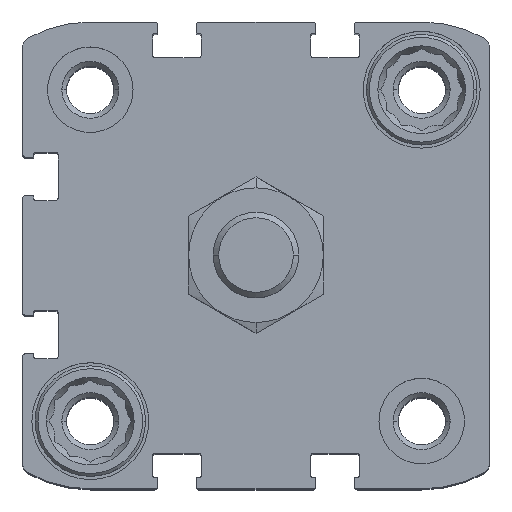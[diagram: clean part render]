
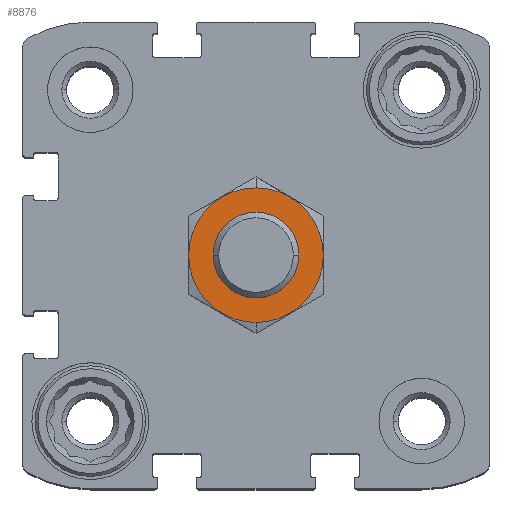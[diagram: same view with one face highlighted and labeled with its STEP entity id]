
A CAD part, top view. The second image highlights one B-rep face of the part: STEP entity #8876.
In plain terms, the highlighted planar face has unit normal (0, 0, 1).
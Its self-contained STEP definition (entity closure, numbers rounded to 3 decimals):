
#216 = EDGE_LOOP ( 'NONE', ( #14972, #6643 ) ) ;
#579 = EDGE_CURVE ( 'NONE', #9124, #8569, #13719, .T. ) ;
#669 = DIRECTION ( 'NONE',  ( 0., 1., 0. ) ) ;
#2800 = CARTESIAN_POINT ( 'NONE',  ( 0., 0., 19.5 ) ) ;
#2934 = AXIS2_PLACEMENT_3D ( 'NONE', #16343, #9737, #3116 ) ;
#3031 = FACE_OUTER_BOUND ( 'NONE', #10237, .T. ) ;
#3116 = DIRECTION ( 'NONE',  ( 0., 1., 0. ) ) ;
#3307 = CARTESIAN_POINT ( 'NONE',  ( 0., 0., 19.5 ) ) ;
#3370 = VERTEX_POINT ( 'NONE', #12874 ) ;
#4257 = AXIS2_PLACEMENT_3D ( 'NONE', #4749, #15023, #669 ) ;
#4432 = EDGE_CURVE ( 'NONE', #5081, #3370, #8739, .T. ) ;
#4617 = EDGE_CURVE ( 'NONE', #8569, #9124, #13432, .T. ) ;
#4749 = CARTESIAN_POINT ( 'NONE',  ( 0., 0., 19.5 ) ) ;
#5081 = VERTEX_POINT ( 'NONE', #12050 ) ;
#5421 = CIRCLE ( 'NONE', #7646, 6. ) ;
#5729 = FACE_BOUND ( 'NONE', #216, .T. ) ;
#6643 = ORIENTED_EDGE ( 'NONE', *, *, #4432, .T. ) ;
#6756 = AXIS2_PLACEMENT_3D ( 'NONE', #3307, #14806, #8617 ) ;
#7641 = DIRECTION ( 'NONE',  ( 0., 1., 0. ) ) ;
#7646 = AXIS2_PLACEMENT_3D ( 'NONE', #2800, #15946, #8102 ) ;
#7970 = CARTESIAN_POINT ( 'NONE',  ( 0., 9.45, 19.5 ) ) ;
#8102 = DIRECTION ( 'NONE',  ( 0., 1., 0. ) ) ;
#8157 = AXIS2_PLACEMENT_3D ( 'NONE', #13045, #11742, #7641 ) ;
#8569 = VERTEX_POINT ( 'NONE', #14010 ) ;
#8617 = DIRECTION ( 'NONE',  ( 0., 1., 0. ) ) ;
#8739 = CIRCLE ( 'NONE', #6756, 6. ) ;
#8876 = ADVANCED_FACE ( 'NONE', ( #3031, #5729 ), #11052, .F. ) ;
#9124 = VERTEX_POINT ( 'NONE', #7970 ) ;
#9737 = DIRECTION ( 'NONE',  ( 0., 0., -1. ) ) ;
#10237 = EDGE_LOOP ( 'NONE', ( #14471, #13902 ) ) ;
#11052 = PLANE ( 'NONE',  #2934 ) ;
#11742 = DIRECTION ( 'NONE',  ( 0., 0., -1. ) ) ;
#12050 = CARTESIAN_POINT ( 'NONE',  ( 0., 6., 19.5 ) ) ;
#12874 = CARTESIAN_POINT ( 'NONE',  ( 0., -6., 19.5 ) ) ;
#13045 = CARTESIAN_POINT ( 'NONE',  ( 0., 0., 19.5 ) ) ;
#13432 = CIRCLE ( 'NONE', #8157, 9.45 ) ;
#13719 = CIRCLE ( 'NONE', #4257, 9.45 ) ;
#13902 = ORIENTED_EDGE ( 'NONE', *, *, #4617, .F. ) ;
#14010 = CARTESIAN_POINT ( 'NONE',  ( 0., -9.45, 19.5 ) ) ;
#14471 = ORIENTED_EDGE ( 'NONE', *, *, #579, .F. ) ;
#14806 = DIRECTION ( 'NONE',  ( 0., 0., -1. ) ) ;
#14972 = ORIENTED_EDGE ( 'NONE', *, *, #16744, .T. ) ;
#15023 = DIRECTION ( 'NONE',  ( 0., 0., -1. ) ) ;
#15946 = DIRECTION ( 'NONE',  ( 0., 0., -1. ) ) ;
#16343 = CARTESIAN_POINT ( 'NONE',  ( 0., 0., 19.5 ) ) ;
#16744 = EDGE_CURVE ( 'NONE', #3370, #5081, #5421, .T. ) ;
